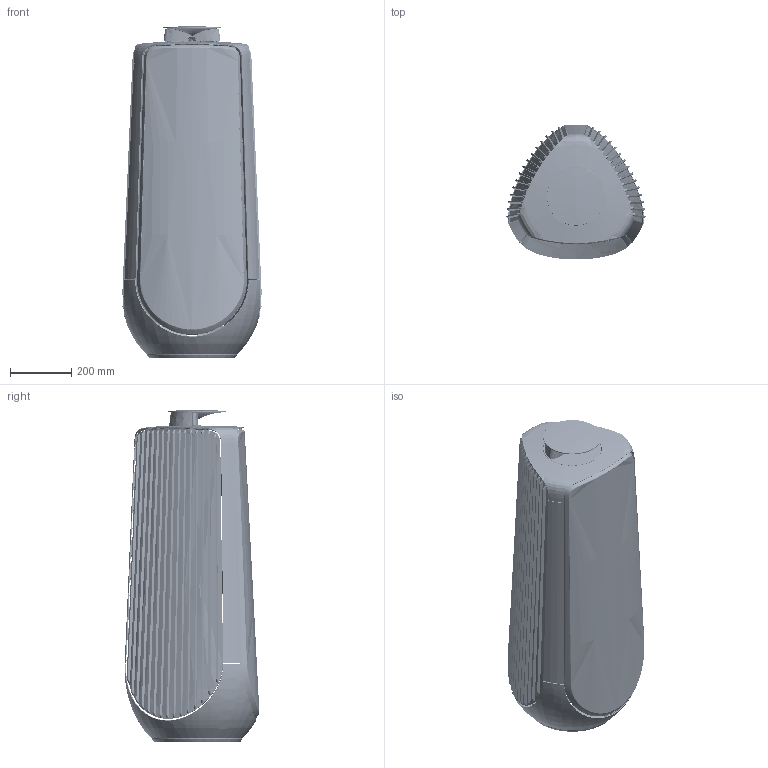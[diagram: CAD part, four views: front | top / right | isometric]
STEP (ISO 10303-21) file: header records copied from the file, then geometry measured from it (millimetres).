
FILE_DESCRIPTION((''),'2;1');
FILE_NAME('9991308_01_ASM','2017-08-01T',('EJO'),('Bang_&_Olufsen_A/S'),'CREO PARAMETRIC BY PTC INC, 2016260','CREO PARAMETRIC BY PTC INC, 2016260','');
FILE_SCHEMA(('CONFIG_CONTROL_DESIGN'));
Length unit declared in the file: millimetre
Products named in the file (18): 9991308_00_DESIGN_SKEL0001; 9991308_00_ALUTOP; 9991308_00_ALU_BOTTOM; 9991308_00_LENSE_SKEL0001; 9991308_00_LENSE_TOP; 9991308_00_LENSE; 9991308_00_LENSE_GROUND; 9991308_00_LENSE_BACK; 9991308_00_JAW_RIGHT; 9991308_00_JAW_LEFT; 8480527_00; 9991308_00_LENSE_ASM; 9991308_00_ALU_SIDEBAR; 9991308_00_FABRIC; 9991308_00_LAMELLAS_SKEL0001; 9991308_00_LAMELLAS_ALU; 9991308_00_LAMELLAS_ASM; 9991308_01_ASM
Assembly tree (20 placements, depth 3):
  9991308_01_ASM
    9991308_00_DESIGN_SKEL0001
    9991308_00_ALUTOP
    9991308_00_ALU_BOTTOM
    9991308_00_LENSE_ASM
      9991308_00_LENSE_SKEL0001
      9991308_00_LENSE_TOP
      9991308_00_LENSE
      9991308_00_LENSE_GROUND
      9991308_00_LENSE_BACK
      9991308_00_JAW_RIGHT
      9991308_00_JAW_LEFT
      8480527_00
    9991308_00_ALU_SIDEBAR  x3
    9991308_00_FABRIC
    9991308_00_LAMELLAS_ASM
      9991308_00_LAMELLAS_SKEL0001
      9991308_00_LAMELLAS_ALU  x2
Bounding box: 455.85 x 440.88 x 1085 mm (x, y, z)
Volume: 5823620.5 mm3; surface area: 4467164 mm2
Topology: 49 solids, 49 shells, 10035 faces, 26684 edges, 17019 vertices
Faces by surface type: plane 4665, cylinder 1820, bspline 1758, cone 976, torus 318, extrusion 245, sphere 141, revolution 112
Entity records: 520622 total; most frequent: CARTESIAN_POINT 219460, ORIENTED_EDGE 44790, DIRECTION 33880, PRESENTATION_STYLE_ASSIGNMENT 28177, STYLED_ITEM 27604, CURVE_STYLE 22636, EDGE_CURVE 22395, VERTEX_POINT 14211
